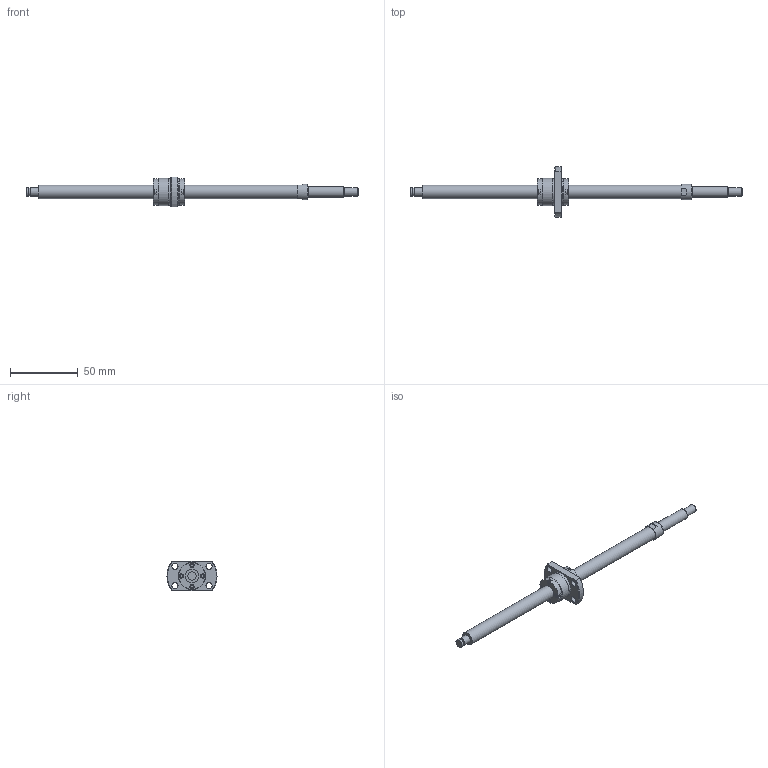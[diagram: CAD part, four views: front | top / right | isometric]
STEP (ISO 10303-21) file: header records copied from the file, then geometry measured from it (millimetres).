
FILE_DESCRIPTION(/* description */ ('STEP AP214'),/* implementation_level */ '2;1');
FILE_NAME(/* name */ 'SRT1020-187R245C7B0X(85Processing)',/* time_stamp */ '2026-08-06T15:11:55+02:00',/* author */ ('License CC BY-ND 4.0'),/* organization */ ('CADENAS'),/* preprocessor_version */ 'ST-DEVELOPER v20',/* originating_system */ 'PARTsolutions',/* authorisation */ ' ');
FILE_SCHEMA (('AUTOMOTIVE_DESIGN {1 0 10303 214 3 1 1}'));
Length unit declared in the file: millimetre
Products named in the file (3): SRT1020-187R245C7B0X(85Processing); SRT1020-187R270BCt7Processing73Shaft; SRT1020Nut
Assembly tree (2 placements, depth 2):
  SRT1020-187R245C7B0X(85Processing)
    SRT1020-187R270BCt7Processing73Shaft
    SRT1020Nut
Bounding box: 245 x 37 x 22 mm (x, y, z)
Volume: 24778.4 mm3; surface area: 11629 mm2
Topology: 2 solids, 2 shells, 155 faces, 367 edges, 241 vertices
Faces by surface type: plane 109, cylinder 35, cone 10, torus 1
Full cylindrical faces by diameter (mm): 3 x8, 4.5 x4, 5.7 x1, 6 x3, 8 x1, 10 x2, 11.5 x1, 19.5 x3, 20 x2
Entity records: 4367 total; most frequent: CARTESIAN_POINT 752, DIRECTION 738, ORIENTED_EDGE 664, EDGE_CURVE 332, AXIS2_PLACEMENT_3D 256, VERTEX_POINT 238, LINE 226, VECTOR 226
